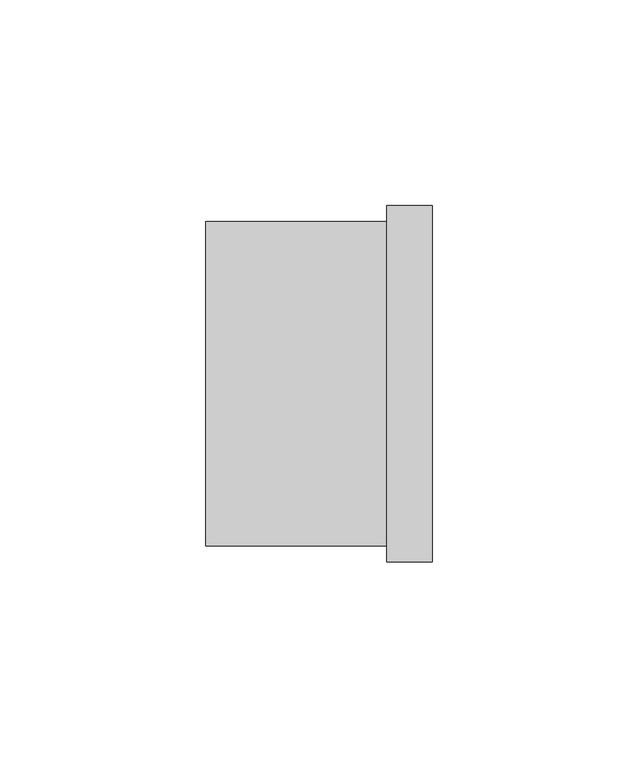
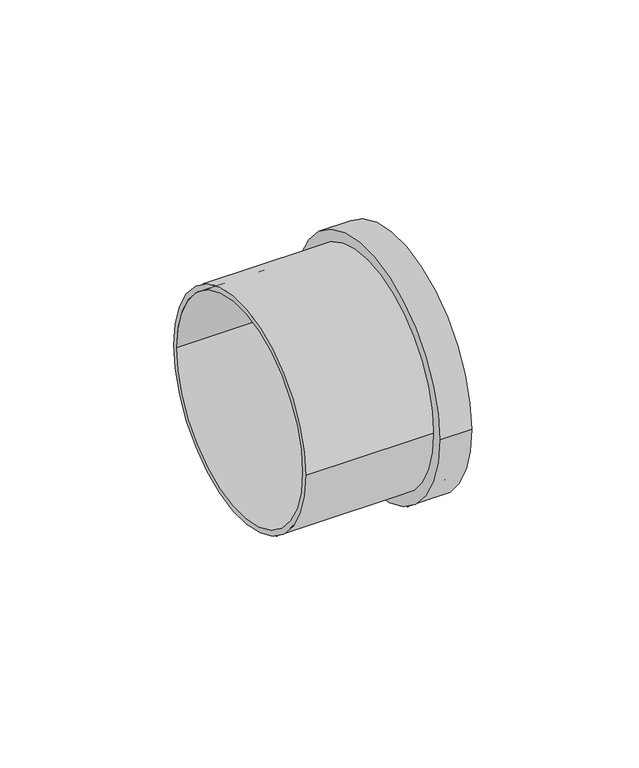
"""IFC4 building model written with IfcOpenShell, lengths in millimetres: pipe fitting geometry, Superdrain HT pipe socket : Superdrain HT pipe socket."""

from ifc_helpers import new_model, si_unit, point, frame, origin, origin_2d, place, context, project, spatial, circle_curve, trimmed, segment, composite_curve, outline, extrude, source, transform, mapped, element, save


def pipe_fitting_6fccea22(model_context):
    return source(origin(), model_context, "Body", "SweptSolid", [
        extrude(outline(composite_curve([segment(trimmed(circle_curve(origin_2d(), 39.375), [point((39.375, 0.0))], [point((-39.375, 0.0))], False, "CARTESIAN"), True, "CONTINUOUS"), segment(trimmed(circle_curve(origin_2d(), 39.375), [point((-39.375, 0.0))], [point((39.375, 0.0))], False, "CARTESIAN"), True, "CONTINUOUS")], self_intersect=False), holes=[composite_curve([segment(trimmed(circle_curve(origin_2d(), 37.5), [point((37.5, 0.0))], [point((-37.5, 0.0))], True, "CARTESIAN"), True, "CONTINUOUS"), segment(trimmed(circle_curve(origin_2d(), 37.5), [point((-37.5, 0.0))], [point((37.5, 0.0))], True, "CARTESIAN"), True, "CONTINUOUS")], self_intersect=False)]), frame((0.0, 0.0, 0.0), z_axis=(1.0, 0.0, 0.0), x_axis=(0.0, 1.0, 0.0)), (0.0, 0.0, 1.0), 55.0),
        extrude(outline(composite_curve([segment(trimmed(circle_curve(origin_2d(), 43.3125), [point((43.3125, 0.0))], [point((-43.3125, 0.0))], False, "CARTESIAN"), True, "CONTINUOUS"), segment(trimmed(circle_curve(origin_2d(), 43.3125), [point((-43.3125, 0.0))], [point((43.3125, 0.0))], False, "CARTESIAN"), True, "CONTINUOUS")], self_intersect=False), holes=[composite_curve([segment(trimmed(circle_curve(origin_2d(), 37.5), [point((37.5, 0.0))], [point((-37.5, 0.0))], True, "CARTESIAN"), True, "CONTINUOUS"), segment(trimmed(circle_curve(origin_2d(), 37.5), [point((-37.5, 0.0))], [point((37.5, 0.0))], True, "CARTESIAN"), True, "CONTINUOUS")], self_intersect=False)]), frame((44.0, 0.0, 0.0), z_axis=(1.0, 0.0, 0.0), x_axis=(0.0, 1.0, 0.0)), (0.0, 0.0, 1.0), 11.0),
    ])


if __name__ == "__main__":
    model = new_model("IFC4")
    model_context = context("Model", 3, world=origin())
    ifc_project = project(units=[si_unit("LENGTHUNIT", "METRE", prefix="MILLI")], contexts=[model_context])
    site = spatial("IfcSite", under=ifc_project)
    building = spatial("IfcBuilding", under=site)
    placement = place(None, origin())
    pipe_fitting_shape = pipe_fitting_6fccea22(model_context)
    element("IfcPipeFitting", 1, ObjectType="Superdrain HT pipe socket : Superdrain HT pipe socket", at=placement, inside=building, context=model_context, shape_type="MappedRepresentation", body=[
        mapped(pipe_fitting_shape, transform((0.0, 0.0, 0.0), x_axis=(1.0, 0.0, 0.0), y_axis=(0.0, 1.0, 0.0), z_axis=(0.0, 0.0, 1.0))),
    ])
    save(model, "model.ifc")
